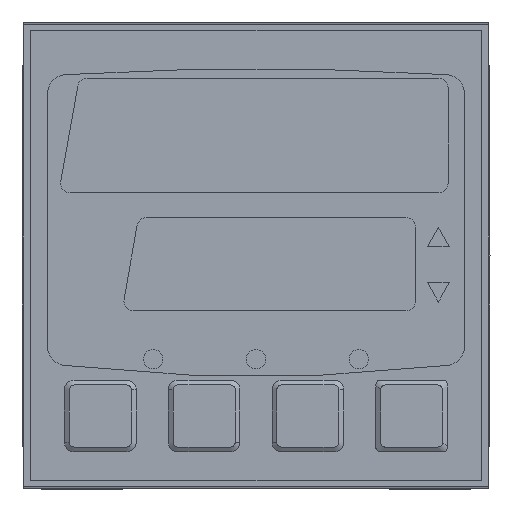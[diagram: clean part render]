
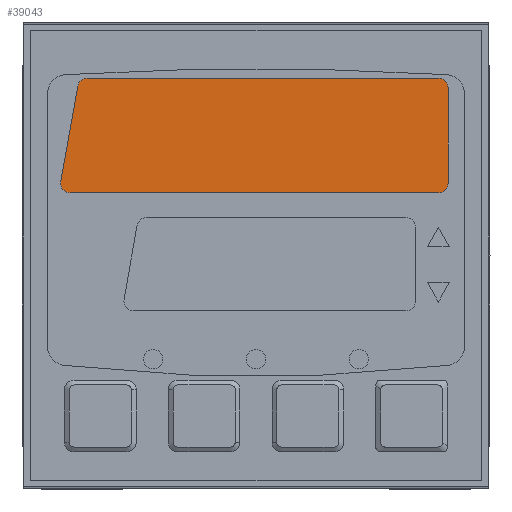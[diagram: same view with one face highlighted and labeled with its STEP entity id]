
A CAD part, top view. The second image highlights one B-rep face of the part: STEP entity #39043.
In plain terms, the highlighted planar face has unit normal (0, 0, 1).
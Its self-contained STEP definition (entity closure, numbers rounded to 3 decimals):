
#365 = LINE ( 'NONE', #38510, #34100 ) ;
#1041 = CIRCLE ( 'NONE', #26405, 1. ) ;
#1477 = VERTEX_POINT ( 'NONE', #35489 ) ;
#1983 = DIRECTION ( 'NONE',  ( 1., 0., 0. ) ) ;
#2350 = DIRECTION ( 'NONE',  ( 0., 0., -1. ) ) ;
#2871 = CARTESIAN_POINT ( 'NONE',  ( -19.15, 7.456, 0.05 ) ) ;
#3684 = CARTESIAN_POINT ( 'NONE',  ( -18.374, 17.476, 0.05 ) ) ;
#3804 = FACE_OUTER_BOUND ( 'NONE', #21690, .T. ) ;
#4083 = DIRECTION ( 'NONE',  ( 0., 1., 0. ) ) ;
#4126 = LINE ( 'NONE', #3684, #37809 ) ;
#6123 = DIRECTION ( 'NONE',  ( 1., 0., 0. ) ) ;
#7119 = CARTESIAN_POINT ( 'NONE',  ( 19.8, 7.456, 0.05 ) ) ;
#7538 = VECTOR ( 'NONE', #15587, 1000. ) ;
#7710 = EDGE_CURVE ( 'NONE', #32696, #38411, #16749, .T. ) ;
#9019 = EDGE_CURVE ( 'NONE', #10060, #30661, #1041, .T. ) ;
#9190 = ORIENTED_EDGE ( 'NONE', *, *, #37566, .T. ) ;
#9872 = CARTESIAN_POINT ( 'NONE',  ( 18.8, 17.3, 0.05 ) ) ;
#10060 = VERTEX_POINT ( 'NONE', #15537 ) ;
#10658 = CARTESIAN_POINT ( 'NONE',  ( 18.8, 7.456, 0.05 ) ) ;
#12322 = CARTESIAN_POINT ( 'NONE',  ( -19.15, 6.456, 0.05 ) ) ;
#12413 = CARTESIAN_POINT ( 'NONE',  ( -18.374, 17.476, 0.05 ) ) ;
#12918 = ORIENTED_EDGE ( 'NONE', *, *, #34672, .T. ) ;
#13163 = DIRECTION ( 'NONE',  ( -1., 0., 0. ) ) ;
#13169 = DIRECTION ( 'NONE',  ( -1., 0., 0. ) ) ;
#13941 = DIRECTION ( 'NONE',  ( 1., 0., 0. ) ) ;
#13994 = ORIENTED_EDGE ( 'NONE', *, *, #9019, .T. ) ;
#15447 = ORIENTED_EDGE ( 'NONE', *, *, #7710, .T. ) ;
#15537 = CARTESIAN_POINT ( 'NONE',  ( 18.8, 6.456, 0.05 ) ) ;
#15587 = DIRECTION ( 'NONE',  ( 1., 0., 0. ) ) ;
#16749 = CIRCLE ( 'NONE', #39199, 1. ) ;
#18366 = AXIS2_PLACEMENT_3D ( 'NONE', #41004, #21493, #1983 ) ;
#18584 = VECTOR ( 'NONE', #4083, 1000. ) ;
#19902 = VERTEX_POINT ( 'NONE', #22941 ) ;
#20206 = CARTESIAN_POINT ( 'NONE',  ( 19.8, 17.3, 0.05 ) ) ;
#20372 = EDGE_CURVE ( 'NONE', #32055, #19902, #4126, .T. ) ;
#20691 = EDGE_CURVE ( 'NONE', #41054, #32055, #34799, .T. ) ;
#21493 = DIRECTION ( 'NONE',  ( 0., 0., 1. ) ) ;
#21690 = EDGE_LOOP ( 'NONE', ( #15447, #9190, #38792, #27261, #30491, #12918, #13994, #29895 ) ) ;
#21857 = PLANE ( 'NONE',  #33547 ) ;
#22941 = CARTESIAN_POINT ( 'NONE',  ( -20.134, 7.632, 0.05 ) ) ;
#23235 = DIRECTION ( 'NONE',  ( -0.176, -0.984, 0. ) ) ;
#23572 = CARTESIAN_POINT ( 'NONE',  ( -17.39, 18.3, 0.05 ) ) ;
#25154 = DIRECTION ( 'NONE',  ( -1., 0., 0. ) ) ;
#25664 = DIRECTION ( 'NONE',  ( 0., 0., 1. ) ) ;
#25746 = EDGE_CURVE ( 'NONE', #30661, #32696, #29275, .T. ) ;
#26405 = AXIS2_PLACEMENT_3D ( 'NONE', #10658, #33494, #13941 ) ;
#27261 = ORIENTED_EDGE ( 'NONE', *, *, #20372, .T. ) ;
#27649 = CARTESIAN_POINT ( 'NONE',  ( 18.8, 18.3, 0.05 ) ) ;
#29275 = LINE ( 'NONE', #20206, #18584 ) ;
#29895 = ORIENTED_EDGE ( 'NONE', *, *, #25746, .T. ) ;
#30491 = ORIENTED_EDGE ( 'NONE', *, *, #41449, .T. ) ;
#30661 = VERTEX_POINT ( 'NONE', #7119 ) ;
#31587 = CARTESIAN_POINT ( 'NONE',  ( 18.8, 17.3, 0.05 ) ) ;
#32055 = VERTEX_POINT ( 'NONE', #12413 ) ;
#32694 = DIRECTION ( 'NONE',  ( 0., 0., 1. ) ) ;
#32696 = VERTEX_POINT ( 'NONE', #38279 ) ;
#33494 = DIRECTION ( 'NONE',  ( 0., 0., 1. ) ) ;
#33547 = AXIS2_PLACEMENT_3D ( 'NONE', #31587, #2350, #25154 ) ;
#33609 = LINE ( 'NONE', #12322, #7538 ) ;
#34100 = VECTOR ( 'NONE', #13169, 1000. ) ;
#34672 = EDGE_CURVE ( 'NONE', #1477, #10060, #33609, .T. ) ;
#34799 = CIRCLE ( 'NONE', #18366, 1. ) ;
#35489 = CARTESIAN_POINT ( 'NONE',  ( -19.15, 6.456, 0.05 ) ) ;
#35779 = AXIS2_PLACEMENT_3D ( 'NONE', #2871, #25664, #6123 ) ;
#37566 = EDGE_CURVE ( 'NONE', #38411, #41054, #365, .T. ) ;
#37809 = VECTOR ( 'NONE', #23235, 1000. ) ;
#38279 = CARTESIAN_POINT ( 'NONE',  ( 19.8, 17.3, 0.05 ) ) ;
#38411 = VERTEX_POINT ( 'NONE', #27649 ) ;
#38510 = CARTESIAN_POINT ( 'NONE',  ( -17.39, 18.3, 0.05 ) ) ;
#38792 = ORIENTED_EDGE ( 'NONE', *, *, #20691, .T. ) ;
#39043 = ADVANCED_FACE ( 'NONE', ( #3804 ), #21857, .F. ) ;
#39199 = AXIS2_PLACEMENT_3D ( 'NONE', #9872, #32694, #13163 ) ;
#41004 = CARTESIAN_POINT ( 'NONE',  ( -17.39, 17.3, 0.05 ) ) ;
#41054 = VERTEX_POINT ( 'NONE', #23572 ) ;
#41449 = EDGE_CURVE ( 'NONE', #19902, #1477, #41877, .T. ) ;
#41877 = CIRCLE ( 'NONE', #35779, 1. ) ;
